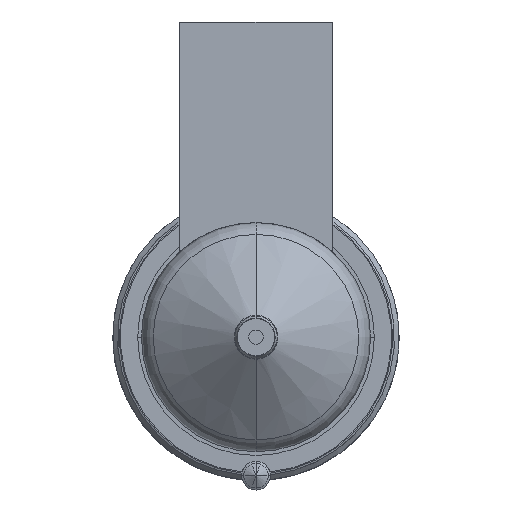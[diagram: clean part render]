
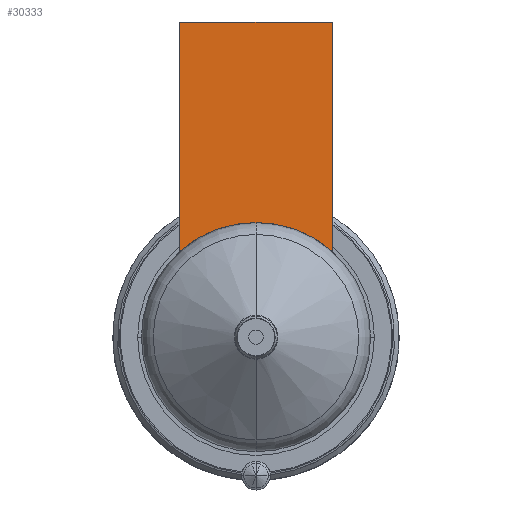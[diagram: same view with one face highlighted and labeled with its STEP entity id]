
A CAD part, front view. The second image highlights one B-rep face of the part: STEP entity #30333.
In plain terms, the highlighted planar face has unit normal (0, -1, 0).
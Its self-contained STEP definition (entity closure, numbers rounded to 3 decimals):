
#29653=DIRECTION('',(0.,0.,-1.));
#29654=VECTOR('',#29653,24.056);
#29655=CARTESIAN_POINT('',(-8.,-56.,33.));
#29656=LINE('',#29655,#29654);
#29693=DIRECTION('',(1.,0.,0.));
#29694=VECTOR('',#29693,16.);
#29695=CARTESIAN_POINT('',(-8.,-56.,33.));
#29696=LINE('',#29695,#29694);
#29700=CARTESIAN_POINT('',(0.,-56.,0.));
#29701=DIRECTION('',(0.,-1.,0.));
#29702=DIRECTION('',(0.667,0.,0.745));
#29703=AXIS2_PLACEMENT_3D('',#29700,#29701,#29702);
#29708=CARTESIAN_POINT('',(0.,-56.,0.));
#29709=DIRECTION('',(0.,-1.,0.));
#29710=DIRECTION('',(0.,0.,1.));
#29711=AXIS2_PLACEMENT_3D('',#29708,#29709,#29710);
#29744=DIRECTION('',(0.,0.,-1.));
#29745=VECTOR('',#29744,24.056);
#29746=CARTESIAN_POINT('',(8.,-56.,33.));
#29747=LINE('',#29746,#29745);
#30197=CARTESIAN_POINT('',(-8.,-56.,33.));
#30198=VERTEX_POINT('',#30197);
#30203=CARTESIAN_POINT('',(8.,-56.,33.));
#30204=VERTEX_POINT('',#30203);
#30207=CARTESIAN_POINT('',(-8.,-56.,8.944));
#30208=VERTEX_POINT('',#30207);
#30211=CARTESIAN_POINT('',(8.,-56.,8.944));
#30212=VERTEX_POINT('',#30211);
#30252=CARTESIAN_POINT('',(0.,-56.,12.));
#30253=VERTEX_POINT('',#30252);
#30318=CARTESIAN_POINT('',(-8.,-56.,33.));
#30319=DIRECTION('',(0.,-1.,0.));
#30320=DIRECTION('',(0.,0.,-1.));
#30321=AXIS2_PLACEMENT_3D('',#30318,#30319,#30320);
#30322=PLANE('',#30321);
#30323=ORIENTED_EDGE('',*,*,#30266,.F.);
#30325=ORIENTED_EDGE('',*,*,#30324,.T.);
#30327=ORIENTED_EDGE('',*,*,#30326,.T.);
#30329=ORIENTED_EDGE('',*,*,#30328,.T.);
#30330=ORIENTED_EDGE('',*,*,#30298,.T.);
#30331=EDGE_LOOP('',(#30323,#30325,#30327,#30329,#30330));
#30332=FACE_OUTER_BOUND('',#30331,.F.);
#30333=ADVANCED_FACE('',(#30332),#30322,.T.);
#29704=CIRCLE('',#29703,12.);
#29712=CIRCLE('',#29711,12.);
#30266=EDGE_CURVE('',#30198,#30208,#29656,.T.);
#30298=EDGE_CURVE('',#30253,#30208,#29712,.T.);
#30324=EDGE_CURVE('',#30198,#30204,#29696,.T.);
#30326=EDGE_CURVE('',#30204,#30212,#29747,.T.);
#30328=EDGE_CURVE('',#30212,#30253,#29704,.T.);
